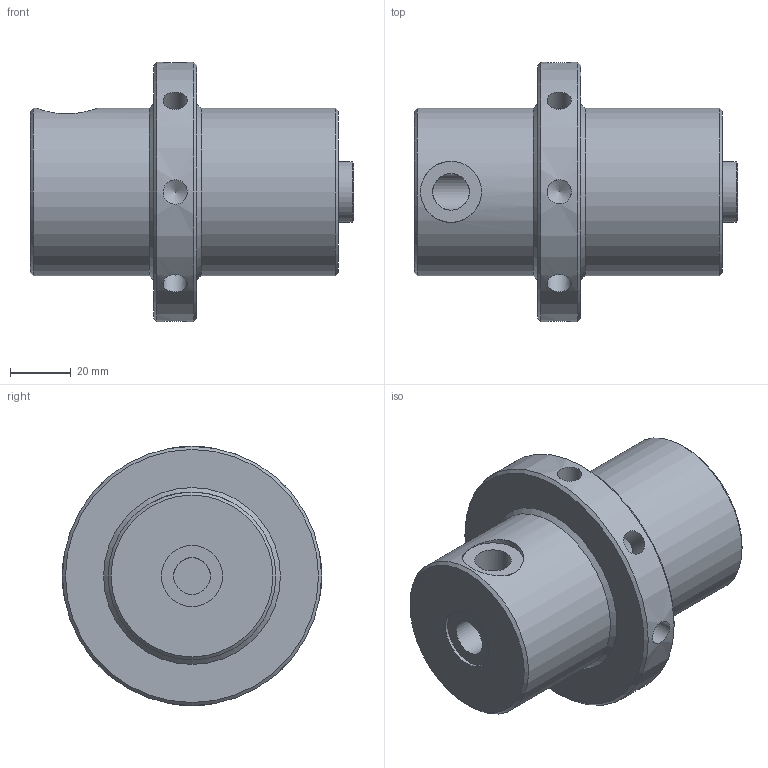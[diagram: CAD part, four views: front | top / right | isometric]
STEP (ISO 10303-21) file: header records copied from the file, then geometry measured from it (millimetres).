
FILE_DESCRIPTION( ( 'Unknown' ), '1' );
FILE_NAME( 'F:/JAKOB-STEP+IGES-Dateien/STEP-Dateien/ZSF/ZSF 1600 - 2.stp', 'Unknown', ( 'Unknown' ), ( 'Unknown' ), 'XStep 1.0', 'Unknown', ' ' );
FILE_SCHEMA( ( 'CONFIG_CONTROL_DESIGN' ) );
Length unit declared in the file: millimetre
Products named in the file (1): 1
Bounding box: 106 x 85 x 85 mm (x, y, z)
Volume: 275238.7 mm3; surface area: 33933.5 mm2
Topology: 1 solids, 1 shells, 42 faces, 104 edges, 67 vertices
Faces by surface type: cylinder 17, cone 17, plane 8
Full cylindrical faces by diameter (mm): 8 x8, 12 x3, 20 x3, 55 x2, 85 x1
Entity records: 1523 total; most frequent: CARTESIAN_POINT 750, DIRECTION 154, ORIENTED_EDGE 86, EDGE_LOOP 84, AXIS2_PLACEMENT_3D 77, FACE_OUTER_BOUND 59, VERTEX_POINT 52, EDGE_CURVE 43
